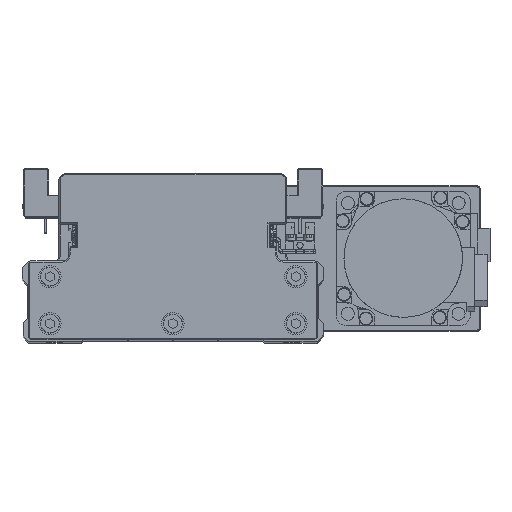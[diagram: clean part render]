
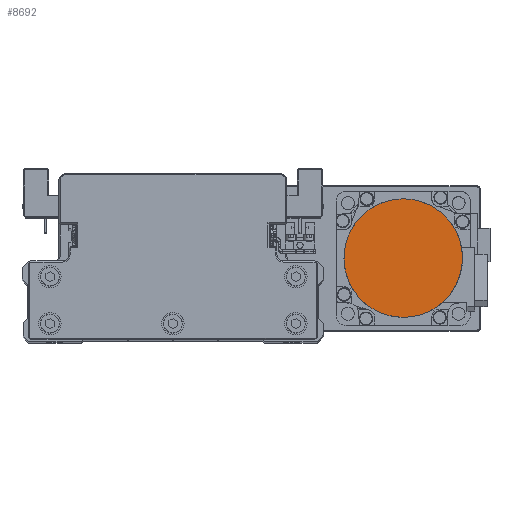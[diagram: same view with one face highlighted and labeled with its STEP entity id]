
A CAD part, top view. The second image highlights one B-rep face of the part: STEP entity #8692.
In plain terms, the highlighted planar face has unit normal (0, 0, 1) as drawn and (0, 0, -1) by its records, which use the part's own axes.
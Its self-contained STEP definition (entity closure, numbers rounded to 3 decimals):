
#2371 = CARTESIAN_POINT ( 'NONE',  ( 23.819, 11.744, -109.7 ) ) ;
#2574 = CARTESIAN_POINT ( 'NONE',  ( -3.469, 26.329, -109.7 ) ) ;
#2627 = CARTESIAN_POINT ( 'NONE',  ( -26.5, 0., -109.7 ) ) ;
#2763 = CARTESIAN_POINT ( 'NONE',  ( -26.329, 3.469, -109.7 ) ) ;
#2819 = CARTESIAN_POINT ( 'NONE',  ( -8.539, -25.147, -109.7 ) ) ;
#3026 = CARTESIAN_POINT ( 'NONE',  ( 21.07, -16.165, -109.7 ) ) ;
#3738 = AXIS2_PLACEMENT_3D ( 'NONE', #32442, #4692, #17033 ) ;
#4692 = DIRECTION ( 'NONE',  ( 0., 0., 1. ) ) ;
#5380 = CARTESIAN_POINT ( 'NONE',  ( 26.329, 3.469, -109.7 ) ) ;
#5583 = CARTESIAN_POINT ( 'NONE',  ( 3.469, 26.329, -109.7 ) ) ;
#5782 = CARTESIAN_POINT ( 'NONE',  ( -23.819, 11.744, -109.7 ) ) ;
#5838 = CARTESIAN_POINT ( 'NONE',  ( -16.165, -21.07, -109.7 ) ) ;
#6027 = CARTESIAN_POINT ( 'NONE',  ( 16.165, -21.07, -109.7 ) ) ;
#7328 = VERTEX_POINT ( 'NONE', #28788 ) ;
#7733 = FACE_OUTER_BOUND ( 'NONE', #15805, .T. ) ;
#8606 = CARTESIAN_POINT ( 'NONE',  ( 11.744, 23.819, -109.7 ) ) ;
#8692 = ADVANCED_FACE ( 'NONE', ( #7733 ), #20095, .F. ) ;
#8805 = CARTESIAN_POINT ( 'NONE',  ( -19.965, 17.512, -109.7 ) ) ;
#8877 = CARTESIAN_POINT ( 'NONE',  ( -21.07, -16.165, -109.7 ) ) ;
#9062 = CARTESIAN_POINT ( 'NONE',  ( 8.539, -25.147, -109.7 ) ) ;
#9252 = CARTESIAN_POINT ( 'NONE',  ( 26.5, 0., -109.7 ) ) ;
#9784 = EDGE_CURVE ( 'NONE', #22771, #7328, #22740, .T. ) ;
#10775 = CARTESIAN_POINT ( 'NONE',  ( 25.147, -8.539, -109.7 ) ) ;
#11643 = CARTESIAN_POINT ( 'NONE',  ( 17.512, 19.965, -109.7 ) ) ;
#11841 = CARTESIAN_POINT ( 'NONE',  ( -13.28, 22.998, -109.7 ) ) ;
#11900 = CARTESIAN_POINT ( 'NONE',  ( -25.147, -8.539, -109.7 ) ) ;
#12113 = CARTESIAN_POINT ( 'NONE',  ( 1.734, -26.5, -109.7 ) ) ;
#12299 = CARTESIAN_POINT ( 'NONE',  ( 25.652, -6.871, -109.7 ) ) ;
#14702 = CARTESIAN_POINT ( 'NONE',  ( 22.998, 13.28, -109.7 ) ) ;
#14896 = CARTESIAN_POINT ( 'NONE',  ( -6.871, 25.652, -109.7 ) ) ;
#14922 = CARTESIAN_POINT ( 'NONE',  ( 26.5, 0., -109.7 ) ) ;
#14952 = CARTESIAN_POINT ( 'NONE',  ( -26.5, -1.734, -109.7 ) ) ;
#15081 = CARTESIAN_POINT ( 'NONE',  ( -26.5, 1.734, -109.7 ) ) ;
#15142 = CARTESIAN_POINT ( 'NONE',  ( -6.871, -25.652, -109.7 ) ) ;
#15351 = CARTESIAN_POINT ( 'NONE',  ( 22.998, -13.28, -109.7 ) ) ;
#15805 = EDGE_LOOP ( 'NONE', ( #38376, #27652 ) ) ;
#17033 = DIRECTION ( 'NONE',  ( 1., 0., 0. ) ) ;
#17724 = CARTESIAN_POINT ( 'NONE',  ( 25.652, 6.871, -109.7 ) ) ;
#17939 = CARTESIAN_POINT ( 'NONE',  ( 1.734, 26.5, -109.7 ) ) ;
#18132 = CARTESIAN_POINT ( 'NONE',  ( -25.147, 8.539, -109.7 ) ) ;
#18190 = CARTESIAN_POINT ( 'NONE',  ( -13.28, -22.998, -109.7 ) ) ;
#18383 = CARTESIAN_POINT ( 'NONE',  ( 17.512, -19.965, -109.7 ) ) ;
#20095 = PLANE ( 'NONE',  #3738 ) ;
#20797 = CARTESIAN_POINT ( 'NONE',  ( 26.5, 0., -109.7 ) ) ;
#20980 = CARTESIAN_POINT ( 'NONE',  ( 8.539, 25.147, -109.7 ) ) ;
#21188 = CARTESIAN_POINT ( 'NONE',  ( -21.07, 16.165, -109.7 ) ) ;
#21249 = CARTESIAN_POINT ( 'NONE',  ( -19.965, -17.512, -109.7 ) ) ;
#21436 = CARTESIAN_POINT ( 'NONE',  ( 11.744, -23.819, -109.7 ) ) ;
#22740 = B_SPLINE_CURVE_WITH_KNOTS ( 'NONE', 3,
 ( #20797, #33137, #5380, #17724, #30100, #2371, #14702, #27066, #39411, #11643, #24022, #36382, #8606, #20980, #33330, #5583, #17939, #30309, #2574, #14896, #27252, #39598, #11841, #24210, #36569, #8805, #21188, #33543, #5782, #18132, #30503, #2763, #15081, #27446 ),
 .UNSPECIFIED., .F., .F.,
 ( 4, 2, 2, 2, 2, 2, 2, 2, 2, 2, 2, 2, 2, 2, 2, 2, 4 ),
 ( 0., 0.062, 0.125, 0.187, 0.25, 0.312, 0.375, 0.437, 0.5, 0.562, 0.625, 0.687, 0.75, 0.813, 0.875, 0.938, 1. ),
 .UNSPECIFIED. ) ;
#22771 = VERTEX_POINT ( 'NONE', #14922 ) ;
#23278 = B_SPLINE_CURVE_WITH_KNOTS ( 'NONE', 3,
 ( #2627, #14952, #27312, #39657, #11900, #24275, #36640, #8877, #21249, #33601, #5838, #18190, #30559, #2819, #15142, #27510, #39860, #12113, #24488, #36836, #9062, #21436, #33788, #6027, #18383, #30755, #3026, #15351, #27723, #10775, #12299, #24676, #37021, #9252 ),
 .UNSPECIFIED., .F., .F.,
 ( 4, 2, 2, 2, 2, 2, 2, 2, 2, 2, 2, 2, 2, 2, 2, 2, 4 ),
 ( 0., 0.063, 0.125, 0.188, 0.25, 0.312, 0.375, 0.437, 0.5, 0.562, 0.625, 0.687, 0.75, 0.813, 0.875, 0.938, 1. ),
 .UNSPECIFIED. ) ;
#24022 = CARTESIAN_POINT ( 'NONE',  ( 16.165, 21.07, -109.7 ) ) ;
#24210 = CARTESIAN_POINT ( 'NONE',  ( -16.165, 21.07, -109.7 ) ) ;
#24275 = CARTESIAN_POINT ( 'NONE',  ( -23.819, -11.744, -109.7 ) ) ;
#24488 = CARTESIAN_POINT ( 'NONE',  ( 3.469, -26.329, -109.7 ) ) ;
#24676 = CARTESIAN_POINT ( 'NONE',  ( 26.329, -3.469, -109.7 ) ) ;
#27066 = CARTESIAN_POINT ( 'NONE',  ( 21.07, 16.165, -109.7 ) ) ;
#27252 = CARTESIAN_POINT ( 'NONE',  ( -8.539, 25.147, -109.7 ) ) ;
#27312 = CARTESIAN_POINT ( 'NONE',  ( -26.329, -3.469, -109.7 ) ) ;
#27446 = CARTESIAN_POINT ( 'NONE',  ( -26.5, 0., -109.7 ) ) ;
#27510 = CARTESIAN_POINT ( 'NONE',  ( -3.469, -26.329, -109.7 ) ) ;
#27652 = ORIENTED_EDGE ( 'NONE', *, *, #34789, .F. ) ;
#27723 = CARTESIAN_POINT ( 'NONE',  ( 23.819, -11.744, -109.7 ) ) ;
#28788 = CARTESIAN_POINT ( 'NONE',  ( -26.5, 0., -109.7 ) ) ;
#30100 = CARTESIAN_POINT ( 'NONE',  ( 25.147, 8.539, -109.7 ) ) ;
#30309 = CARTESIAN_POINT ( 'NONE',  ( -1.734, 26.5, -109.7 ) ) ;
#30503 = CARTESIAN_POINT ( 'NONE',  ( -25.652, 6.871, -109.7 ) ) ;
#30559 = CARTESIAN_POINT ( 'NONE',  ( -11.744, -23.819, -109.7 ) ) ;
#30755 = CARTESIAN_POINT ( 'NONE',  ( 19.965, -17.512, -109.7 ) ) ;
#32442 = CARTESIAN_POINT ( 'NONE',  ( 0., 0., -109.7 ) ) ;
#33137 = CARTESIAN_POINT ( 'NONE',  ( 26.5, 1.734, -109.7 ) ) ;
#33330 = CARTESIAN_POINT ( 'NONE',  ( 6.871, 25.652, -109.7 ) ) ;
#33543 = CARTESIAN_POINT ( 'NONE',  ( -22.998, 13.28, -109.7 ) ) ;
#33601 = CARTESIAN_POINT ( 'NONE',  ( -17.512, -19.965, -109.7 ) ) ;
#33788 = CARTESIAN_POINT ( 'NONE',  ( 13.28, -22.998, -109.7 ) ) ;
#34789 = EDGE_CURVE ( 'NONE', #7328, #22771, #23278, .T. ) ;
#36382 = CARTESIAN_POINT ( 'NONE',  ( 13.28, 22.998, -109.7 ) ) ;
#36569 = CARTESIAN_POINT ( 'NONE',  ( -17.512, 19.965, -109.7 ) ) ;
#36640 = CARTESIAN_POINT ( 'NONE',  ( -22.998, -13.28, -109.7 ) ) ;
#36836 = CARTESIAN_POINT ( 'NONE',  ( 6.871, -25.652, -109.7 ) ) ;
#37021 = CARTESIAN_POINT ( 'NONE',  ( 26.5, -1.734, -109.7 ) ) ;
#38376 = ORIENTED_EDGE ( 'NONE', *, *, #9784, .F. ) ;
#39411 = CARTESIAN_POINT ( 'NONE',  ( 19.965, 17.512, -109.7 ) ) ;
#39598 = CARTESIAN_POINT ( 'NONE',  ( -11.744, 23.819, -109.7 ) ) ;
#39657 = CARTESIAN_POINT ( 'NONE',  ( -25.652, -6.871, -109.7 ) ) ;
#39860 = CARTESIAN_POINT ( 'NONE',  ( -1.734, -26.5, -109.7 ) ) ;
